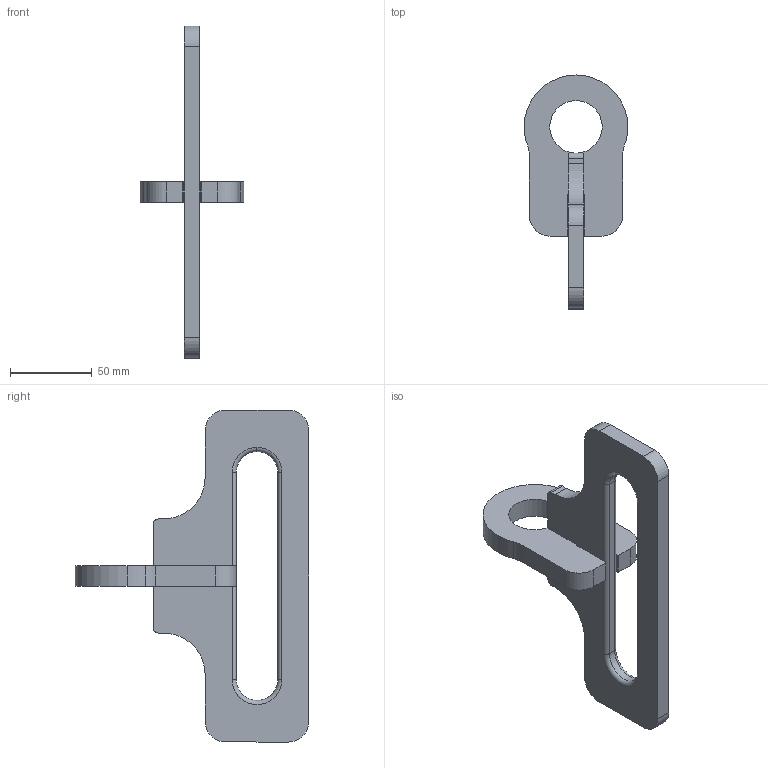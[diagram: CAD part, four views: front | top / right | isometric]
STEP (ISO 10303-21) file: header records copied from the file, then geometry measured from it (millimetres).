
FILE_DESCRIPTION (( 'STEP AP203' ), '1' );
FILE_NAME ('OBH-HANGER.STEP', '2023-06-16T12:45:03', ( 'Windows User' ), ( '' ), 'SwSTEP 2.0', 'SolidWorks 2021', '' );
FILE_SCHEMA (( 'CONFIG_CONTROL_DESIGN' ));
Length unit declared in the file: inch
Products named in the file (3): OBH-HANGER; OT005018 - .5 inch; OT005017
Assembly tree (2 placements, depth 2):
  OBH-HANGER
    OT005017
    OT005018 - .5 inch
Bounding box: 63.5 x 143.07 x 203.2 mm (x, y, z)
Volume: 160620.5 mm3; surface area: 44697.6 mm2
Topology: 2 solids, 2 shells, 59 faces, 155 edges, 100 vertices
Faces by surface type: cylinder 28, plane 25, torus 6
Entity records: 2152 total; most frequent: DIRECTION 347, CARTESIAN_POINT 319, ORIENTED_EDGE 310, EDGE_CURVE 155, AXIS2_PLACEMENT_3D 128, VERTEX_POINT 100, LINE 91, VECTOR 91
